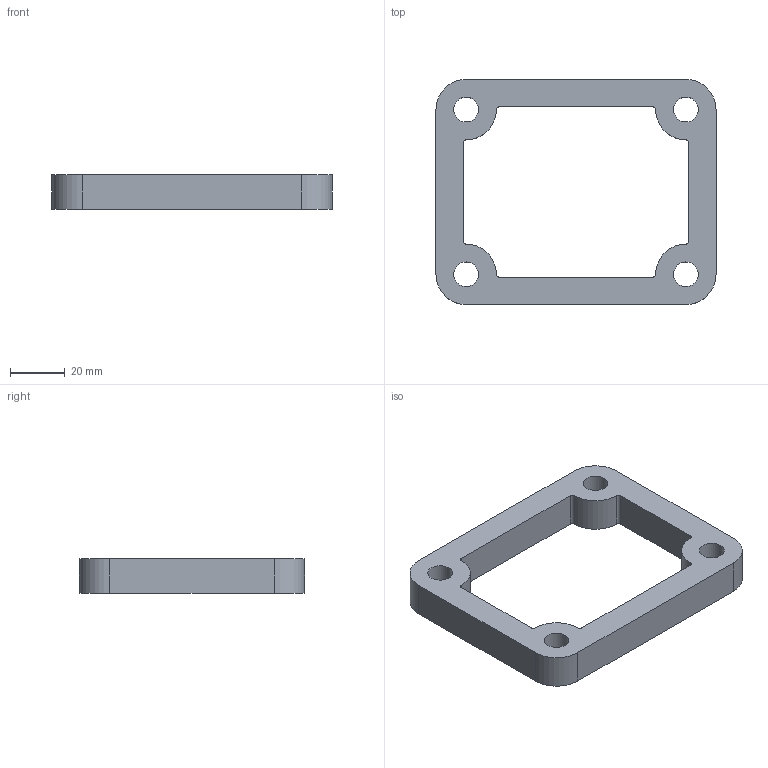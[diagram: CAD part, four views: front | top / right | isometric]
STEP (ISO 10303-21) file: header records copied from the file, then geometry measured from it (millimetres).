
FILE_DESCRIPTION(/* description */ (''),/* implementation_level */ '2;1');
FILE_NAME(/* name */ 'Miata to RX-7 Booster Spacer.step',/* time_stamp */ '2025-06-14T12:37:48-05:00',/* author */ (''),/* organization */ (''),/* preprocessor_version */ 'ST-DEVELOPER v20.1',/* originating_system */ 'Autodesk Translation Framework v14.10.0.0',/* authorisation */ '');
FILE_SCHEMA (('AUTOMOTIVE_DESIGN { 1 0 10303 214 3 1 1 }'));
Length unit declared in the file: millimetre
Products named in the file (1): (Unsaved)
Bounding box: 102 x 82 x 12.7 mm (x, y, z)
Volume: 43123 mm3; surface area: 16035.3 mm2
Topology: 1 solids, 1 shells, 30 faces, 84 edges, 56 vertices
Faces by surface type: cylinder 20, plane 10
Full cylindrical faces by diameter (mm): 9 x4
Entity records: 1041 total; most frequent: DIRECTION 186, CARTESIAN_POINT 171, ORIENTED_EDGE 168, EDGE_CURVE 84, AXIS2_PLACEMENT_3D 71, VERTEX_POINT 56, LINE 44, VECTOR 44
